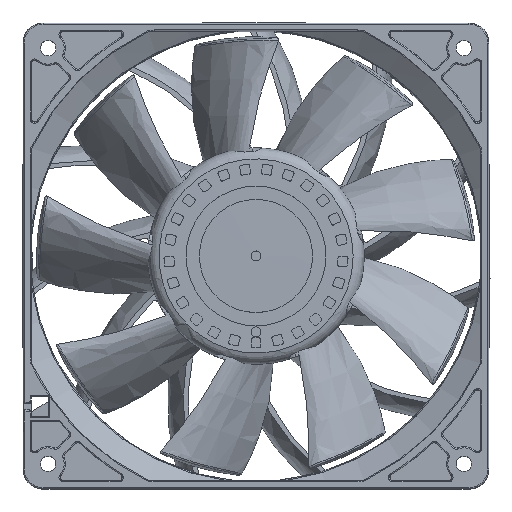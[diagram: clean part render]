
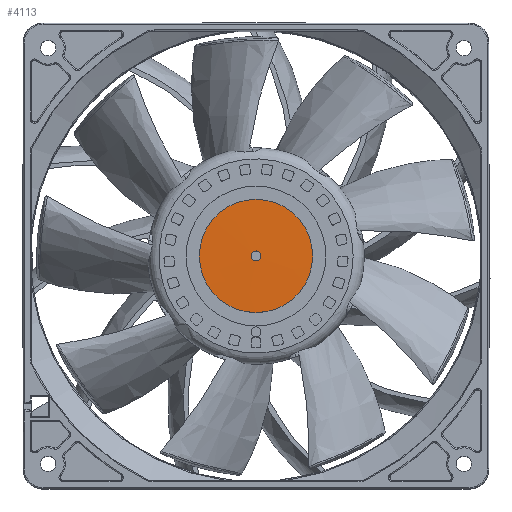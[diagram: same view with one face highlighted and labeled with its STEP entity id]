
A CAD part, top view. The second image highlights one B-rep face of the part: STEP entity #4113.
In plain terms, the highlighted conical face has half-angle 89.512 degrees and reference radius 29.227 mm.
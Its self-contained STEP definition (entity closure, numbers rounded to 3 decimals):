
#380=CONICAL_SURFACE('',#29446,29.227,89.512);
#4113=ADVANCED_FACE('',(#7160,#7161),#380,.T.);
#7160=FACE_BOUND('',#8581,.T.);
#7161=FACE_BOUND('',#8582,.T.);
#8581=EDGE_LOOP('',(#17456));
#8582=EDGE_LOOP('',(#17457));
#9513=CIRCLE('',#29439,17.);
#9515=CIRCLE('',#29444,1.5);
#17456=ORIENTED_EDGE('',*,*,#25133,.F.);
#17457=ORIENTED_EDGE('',*,*,#25131,.F.);
#21122=VERTEX_POINT('',#68052);
#21124=VERTEX_POINT('',#68059);
#25131=EDGE_CURVE('',#21122,#21122,#9513,.T.);
#25133=EDGE_CURVE('',#21124,#21124,#9515,.T.);
#29439=AXIS2_PLACEMENT_3D('',#68051,#35042,#35043);
#29444=AXIS2_PLACEMENT_3D('',#68058,#35052,#35053);
#29446=AXIS2_PLACEMENT_3D('',#68061,#35056,#35057);
#35042=DIRECTION('',(0.,0.,-1.));
#35043=DIRECTION('',(-1.,0.,0.));
#35052=DIRECTION('',(0.,0.,1.));
#35053=DIRECTION('',(-1.,0.,0.));
#35056=DIRECTION('',(0.,0.,-1.));
#35057=DIRECTION('',(1.,0.,0.));
#68051=CARTESIAN_POINT('',(0.,0.,19.554));
#68052=CARTESIAN_POINT('',(-17.,0.,19.554));
#68058=CARTESIAN_POINT('',(0.,0.,19.685));
#68059=CARTESIAN_POINT('',(-1.5,0.,19.685));
#68061=CARTESIAN_POINT('',(0.,0.,19.45));
